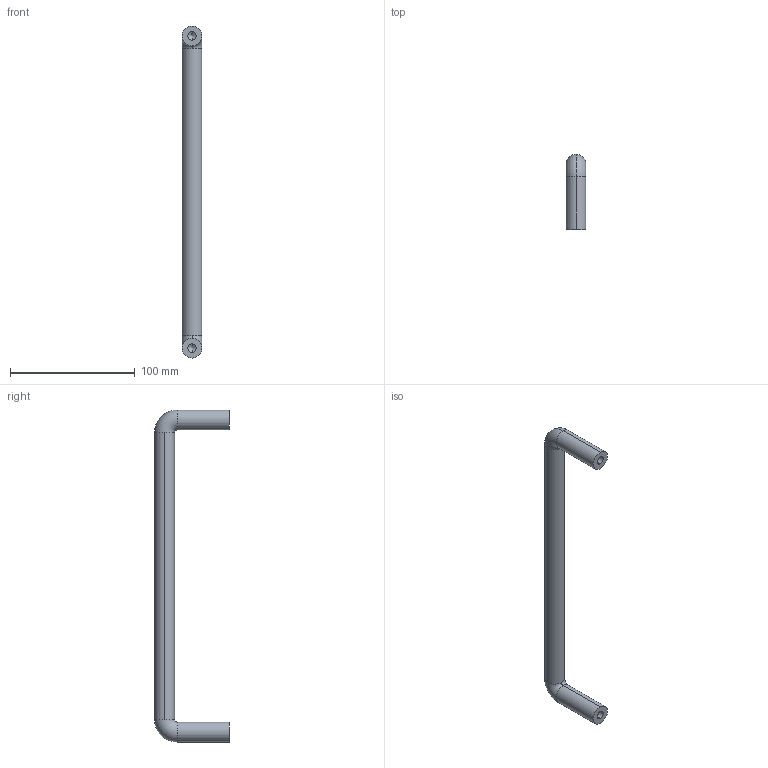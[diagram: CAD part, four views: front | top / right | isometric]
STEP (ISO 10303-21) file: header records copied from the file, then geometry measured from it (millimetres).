
FILE_DESCRIPTION (( 'STEP AP203' ), '1' );
FILE_NAME ('E03-162560.STEP', '2023-04-20T07:46:43', ( '' ), ( '' ), 'SwSTEP 2.0', 'SolidWorks 2021', '' );
FILE_SCHEMA (( 'CONFIG_CONTROL_DESIGN' ));
Length unit declared in the file: millimetre
Products named in the file (1): E03-162560
Bounding box: 16 x 60 x 266 mm (x, y, z)
Volume: 68311 mm3; surface area: 18417.6 mm2
Topology: 1 solids, 1 shells, 20 faces, 46 edges, 26 vertices
Faces by surface type: cylinder 10, torus 4, cone 4, plane 2
Entity records: 623 total; most frequent: DIRECTION 112, CARTESIAN_POINT 89, ORIENTED_EDGE 84, AXIS2_PLACEMENT_3D 49, EDGE_CURVE 42, CIRCLE 28, VERTEX_POINT 26, EDGE_LOOP 22
